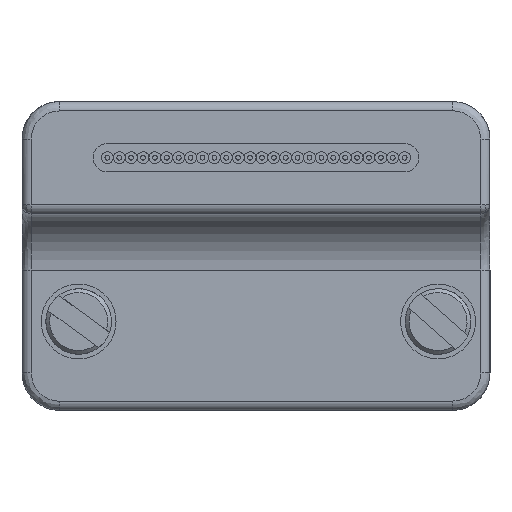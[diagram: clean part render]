
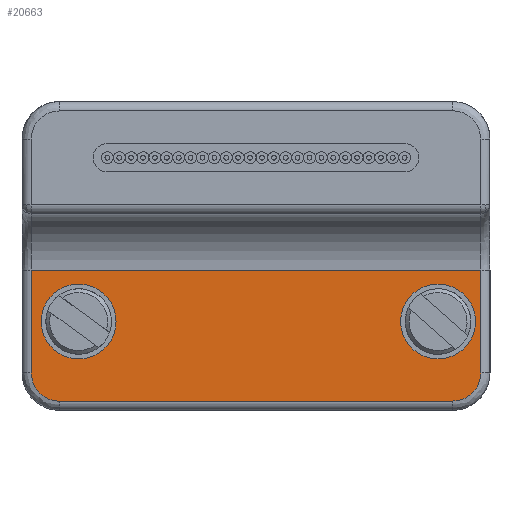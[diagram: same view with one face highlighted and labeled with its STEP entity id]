
A CAD part, front view. The second image highlights one B-rep face of the part: STEP entity #20663.
In plain terms, the highlighted planar face has unit normal (0, -1, 0) as drawn and (0, 0, 1) by its records, which use the part's own axes.
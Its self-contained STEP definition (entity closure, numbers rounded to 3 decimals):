
#34 = DIRECTION ( 'NONE',  ( 0., 0., -1. ) ) ;
#353 = CARTESIAN_POINT ( 'NONE',  ( -11.074, -4.136, 19.2 ) ) ;
#724 = VERTEX_POINT ( 'NONE', #8670 ) ;
#877 = EDGE_CURVE ( 'NONE', #14392, #6416, #14611, .T. ) ;
#913 = B_SPLINE_CURVE_WITH_KNOTS ( 'NONE', 3,
 ( #13384, #13209, #3142, #8078, #8395, #6083, #18485, #28538, #17983, #23415, #5933, #25410, #28345, #15997, #353, #15836, #8230, #25727 ),
 .UNSPECIFIED., .F., .F.,
 ( 4, 1, 1, 2, 2, 2, 1, 1, 2, 2, 4 ),
 ( 0., 0.125, 0.187, 0.219, 0.25, 0.5, 0.625, 0.687, 0.719, 0.75, 1. ),
 .UNSPECIFIED. ) ;
#960 = CARTESIAN_POINT ( 'NONE',  ( 11.886, -3.324, 19.2 ) ) ;
#1151 = VERTEX_POINT ( 'NONE', #22405 ) ;
#1265 = ORIENTED_EDGE ( 'NONE', *, *, #24912, .T. ) ;
#1333 = CARTESIAN_POINT ( 'NONE',  ( -12., 0., 19.2 ) ) ;
#2221 = CARTESIAN_POINT ( 'NONE',  ( -6.25, -4.25, 19.2 ) ) ;
#2265 = VERTEX_POINT ( 'NONE', #13631 ) ;
#2520 = CARTESIAN_POINT ( 'NONE',  ( 7.725, 0., 19.2 ) ) ;
#3142 = CARTESIAN_POINT ( 'NONE',  ( -11.987, -2.986, 19.2 ) ) ;
#3365 = LINE ( 'NONE', #11294, #26546 ) ;
#3434 = CARTESIAN_POINT ( 'NONE',  ( 10.963, -4.177, 19.2 ) ) ;
#3440 = EDGE_LOOP ( 'NONE', ( #1265, #21514 ) ) ;
#3526 = CARTESIAN_POINT ( 'NONE',  ( 10.5, -4.25, 19.2 ) ) ;
#3819 = EDGE_CURVE ( 'NONE', #7794, #724, #4128, .T. ) ;
#4128 = CIRCLE ( 'NONE', #22536, 2. ) ;
#4460 = PLANE ( 'NONE',  #9227 ) ;
#4607 = DIRECTION ( 'NONE',  ( 1., 0., 0. ) ) ;
#4939 = FACE_BOUND ( 'NONE', #28154, .T. ) ;
#4967 = DIRECTION ( 'NONE',  ( -1., 0., 0. ) ) ;
#4998 = ORIENTED_EDGE ( 'NONE', *, *, #19942, .T. ) ;
#5136 = DIRECTION ( 'NONE',  ( -1., 0., 0. ) ) ;
#5137 = EDGE_CURVE ( 'NONE', #8124, #14392, #19873, .T. ) ;
#5710 = AXIS2_PLACEMENT_3D ( 'NONE', #30037, #10099, #17183 ) ;
#5933 = CARTESIAN_POINT ( 'NONE',  ( -11.369, -3.98, 19.2 ) ) ;
#5946 = EDGE_CURVE ( 'NONE', #2265, #1151, #26395, .T. ) ;
#6083 = CARTESIAN_POINT ( 'NONE',  ( -11.912, -3.258, 19.2 ) ) ;
#6416 = VERTEX_POINT ( 'NONE', #15590 ) ;
#6672 = VERTEX_POINT ( 'NONE', #2520 ) ;
#7119 = CARTESIAN_POINT ( 'NONE',  ( -9.475, 0., 19.2 ) ) ;
#7143 = ORIENTED_EDGE ( 'NONE', *, *, #3819, .T. ) ;
#7324 = VECTOR ( 'NONE', #21770, 1000. ) ;
#7469 = LINE ( 'NONE', #2221, #9563 ) ;
#7602 = CARTESIAN_POINT ( 'NONE',  ( 9.725, 0., 19.2 ) ) ;
#7637 = CARTESIAN_POINT ( 'NONE',  ( 12., 0., 19.2 ) ) ;
#7793 = CIRCLE ( 'NONE', #29944, 2. ) ;
#7794 = VERTEX_POINT ( 'NONE', #24606 ) ;
#8078 = CARTESIAN_POINT ( 'NONE',  ( -11.948, -3.145, 19.2 ) ) ;
#8094 = CARTESIAN_POINT ( 'NONE',  ( 12., -2.75, 19.2 ) ) ;
#8124 = VERTEX_POINT ( 'NONE', #3526 ) ;
#8230 = CARTESIAN_POINT ( 'NONE',  ( -10.691, -4.25, 19.2 ) ) ;
#8395 = CARTESIAN_POINT ( 'NONE',  ( -11.927, -3.213, 19.2 ) ) ;
#8670 = CARTESIAN_POINT ( 'NONE',  ( -7.475, 0., 19.2 ) ) ;
#8690 = CARTESIAN_POINT ( 'NONE',  ( 11.875, -3.35, 19.2 ) ) ;
#8847 = CARTESIAN_POINT ( 'NONE',  ( 11.008, -4.162, 19.2 ) ) ;
#9106 = EDGE_CURVE ( 'NONE', #724, #7794, #12757, .T. ) ;
#9227 = AXIS2_PLACEMENT_3D ( 'NONE', #27367, #19312, #4607 ) ;
#9261 = FACE_OUTER_BOUND ( 'NONE', #13483, .T. ) ;
#9563 = VECTOR ( 'NONE', #17531, 1000. ) ;
#10099 = DIRECTION ( 'NONE',  ( 0., 0., -1. ) ) ;
#10282 = ORIENTED_EDGE ( 'NONE', *, *, #877, .T. ) ;
#11031 = CARTESIAN_POINT ( 'NONE',  ( 12., -2.75, 19.2 ) ) ;
#11294 = CARTESIAN_POINT ( 'NONE',  ( 0., 2.75, 19.2 ) ) ;
#12108 = VECTOR ( 'NONE', #17697, 1000. ) ;
#12335 = VERTEX_POINT ( 'NONE', #12889 ) ;
#12757 = CIRCLE ( 'NONE', #28548, 2. ) ;
#12889 = CARTESIAN_POINT ( 'NONE',  ( 11.725, 0., 19.2 ) ) ;
#13209 = CARTESIAN_POINT ( 'NONE',  ( -12., -2.845, 19.2 ) ) ;
#13384 = CARTESIAN_POINT ( 'NONE',  ( -12., -2.75, 19.2 ) ) ;
#13483 = EDGE_LOOP ( 'NONE', ( #4998, #18370, #31496, #27585, #29316, #10282 ) ) ;
#13487 = CARTESIAN_POINT ( 'NONE',  ( 11.634, -3.738, 19.2 ) ) ;
#13631 = CARTESIAN_POINT ( 'NONE',  ( -12., 2.75, 19.2 ) ) ;
#13637 = CARTESIAN_POINT ( 'NONE',  ( 11.244, -4.069, 19.2 ) ) ;
#13822 = CARTESIAN_POINT ( 'NONE',  ( 11.028, -4.154, 19.2 ) ) ;
#13977 = CARTESIAN_POINT ( 'NONE',  ( 11.73, -3.619, 19.2 ) ) ;
#14392 = VERTEX_POINT ( 'NONE', #8094 ) ;
#14579 = DIRECTION ( 'NONE',  ( 0., 0., -1. ) ) ;
#14611 = LINE ( 'NONE', #7637, #12108 ) ;
#15211 = CIRCLE ( 'NONE', #5710, 2. ) ;
#15590 = CARTESIAN_POINT ( 'NONE',  ( 12., 2.75, 19.2 ) ) ;
#15826 = CARTESIAN_POINT ( 'NONE',  ( 10.5, -4.25, 19.2 ) ) ;
#15836 = CARTESIAN_POINT ( 'NONE',  ( -10.875, -4.215, 19.2 ) ) ;
#15957 = CARTESIAN_POINT ( 'NONE',  ( 11.82, -3.466, 19.2 ) ) ;
#15997 = CARTESIAN_POINT ( 'NONE',  ( -11.1, -4.125, 19.2 ) ) ;
#16201 = EDGE_CURVE ( 'NONE', #12335, #6672, #15211, .T. ) ;
#17183 = DIRECTION ( 'NONE',  ( -1., 0., 0. ) ) ;
#17531 = DIRECTION ( 'NONE',  ( -1., 0., 0. ) ) ;
#17697 = DIRECTION ( 'NONE',  ( 0., 1., 0. ) ) ;
#17955 = EDGE_CURVE ( 'NONE', #8124, #21506, #7469, .T. ) ;
#17983 = CARTESIAN_POINT ( 'NONE',  ( -11.707, -3.664, 19.2 ) ) ;
#18370 = ORIENTED_EDGE ( 'NONE', *, *, #5946, .T. ) ;
#18432 = CARTESIAN_POINT ( 'NONE',  ( 11.414, -3.957, 19.2 ) ) ;
#18485 = CARTESIAN_POINT ( 'NONE',  ( -11.904, -3.278, 19.2 ) ) ;
#18838 = DIRECTION ( 'NONE',  ( -1., 0., 0. ) ) ;
#19086 = CARTESIAN_POINT ( 'NONE',  ( 10.736, -4.237, 19.2 ) ) ;
#19312 = DIRECTION ( 'NONE',  ( 0., 0., 1. ) ) ;
#19841 = CARTESIAN_POINT ( 'NONE',  ( -9.475, 0., 19.2 ) ) ;
#19873 = B_SPLINE_CURVE_WITH_KNOTS ( 'NONE', 3,
 ( #15826, #26029, #19086, #21238, #3434, #8847, #13822, #13637, #18432, #13487, #13977, #15957, #23533, #8690, #960, #23374, #21063, #11031 ),
 .UNSPECIFIED., .F., .F.,
 ( 4, 1, 1, 2, 2, 2, 1, 1, 2, 2, 4 ),
 ( 0., 0.125, 0.188, 0.219, 0.25, 0.5, 0.625, 0.688, 0.719, 0.75, 1. ),
 .UNSPECIFIED. ) ;
#19942 = EDGE_CURVE ( 'NONE', #6416, #2265, #3365, .T. ) ;
#20107 = ORIENTED_EDGE ( 'NONE', *, *, #9106, .T. ) ;
#20663 = ADVANCED_FACE ( 'NONE', ( #4939, #29351, #9261 ), #4460, .T. ) ;
#21063 = CARTESIAN_POINT ( 'NONE',  ( 12., -2.941, 19.2 ) ) ;
#21238 = CARTESIAN_POINT ( 'NONE',  ( 10.895, -4.198, 19.2 ) ) ;
#21506 = VERTEX_POINT ( 'NONE', #29577 ) ;
#21514 = ORIENTED_EDGE ( 'NONE', *, *, #16201, .T. ) ;
#21770 = DIRECTION ( 'NONE',  ( 0., -1., 0. ) ) ;
#22068 = EDGE_CURVE ( 'NONE', #1151, #21506, #913, .T. ) ;
#22405 = CARTESIAN_POINT ( 'NONE',  ( -12., -2.75, 19.2 ) ) ;
#22536 = AXIS2_PLACEMENT_3D ( 'NONE', #19841, #30064, #5136 ) ;
#23374 = CARTESIAN_POINT ( 'NONE',  ( 11.965, -3.125, 19.2 ) ) ;
#23415 = CARTESIAN_POINT ( 'NONE',  ( -11.488, -3.884, 19.2 ) ) ;
#23533 = CARTESIAN_POINT ( 'NONE',  ( 11.854, -3.397, 19.2 ) ) ;
#24606 = CARTESIAN_POINT ( 'NONE',  ( -11.475, 0., 19.2 ) ) ;
#24912 = EDGE_CURVE ( 'NONE', #6672, #12335, #7793, .T. ) ;
#25410 = CARTESIAN_POINT ( 'NONE',  ( -11.216, -4.07, 19.2 ) ) ;
#25727 = CARTESIAN_POINT ( 'NONE',  ( -10.5, -4.25, 19.2 ) ) ;
#26029 = CARTESIAN_POINT ( 'NONE',  ( 10.595, -4.25, 19.2 ) ) ;
#26395 = LINE ( 'NONE', #1333, #7324 ) ;
#26546 = VECTOR ( 'NONE', #18838, 1000. ) ;
#27367 = CARTESIAN_POINT ( 'NONE',  ( 0., 0., 19.2 ) ) ;
#27585 = ORIENTED_EDGE ( 'NONE', *, *, #17955, .F. ) ;
#27709 = DIRECTION ( 'NONE',  ( -1., 0., 0. ) ) ;
#28154 = EDGE_LOOP ( 'NONE', ( #7143, #20107 ) ) ;
#28345 = CARTESIAN_POINT ( 'NONE',  ( -11.147, -4.104, 19.2 ) ) ;
#28538 = CARTESIAN_POINT ( 'NONE',  ( -11.819, -3.494, 19.2 ) ) ;
#28548 = AXIS2_PLACEMENT_3D ( 'NONE', #7119, #14579, #4967 ) ;
#29316 = ORIENTED_EDGE ( 'NONE', *, *, #5137, .T. ) ;
#29351 = FACE_BOUND ( 'NONE', #3440, .T. ) ;
#29577 = CARTESIAN_POINT ( 'NONE',  ( -10.5, -4.25, 19.2 ) ) ;
#29944 = AXIS2_PLACEMENT_3D ( 'NONE', #7602, #34, #27709 ) ;
#30037 = CARTESIAN_POINT ( 'NONE',  ( 9.725, 0., 19.2 ) ) ;
#30064 = DIRECTION ( 'NONE',  ( 0., 0., -1. ) ) ;
#31496 = ORIENTED_EDGE ( 'NONE', *, *, #22068, .T. ) ;
